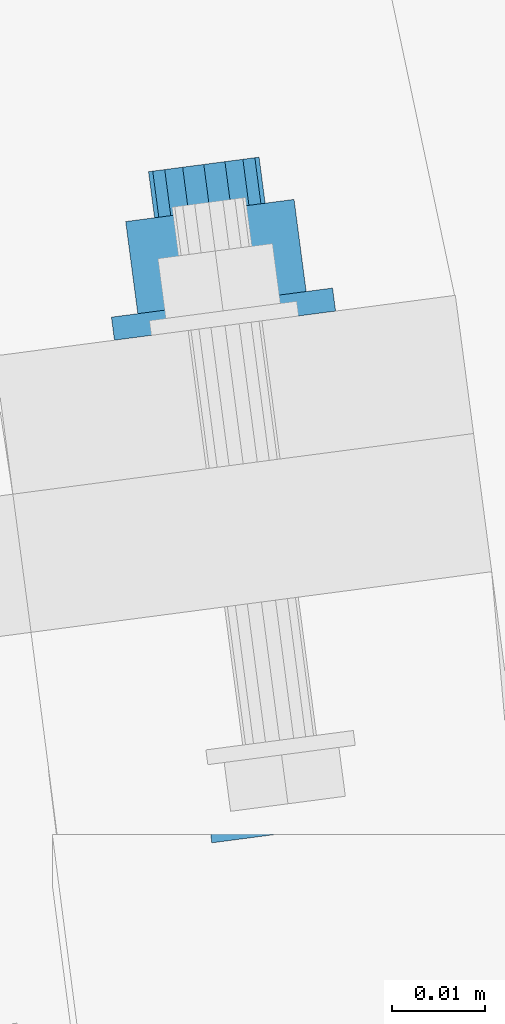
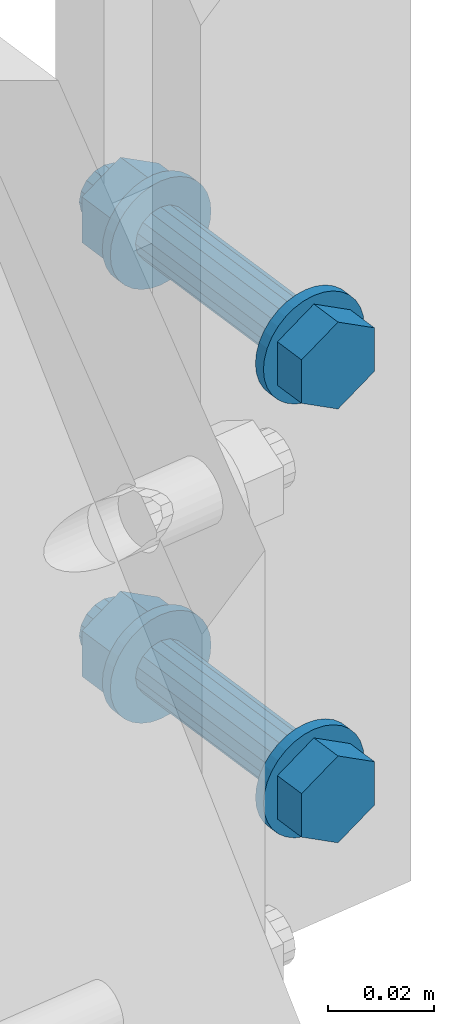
# One storey, part 191 of 296: 1 mechanical fastener.
"""IFC2X3 building model written with IfcOpenShell, lengths in millimetres."""

from ifc_helpers import new_model, entity, si_unit, converted_unit, origin_with_axes, place, context, project, spatial, faceted_brep, element, save


model = new_model("IFC2X3")

# Units and contexts
model_context = context("Model", 3, precision=1e-09, world=origin_with_axes())
ifc_project = project(units=[si_unit("LENGTHUNIT", "METRE", prefix="MILLI"), si_unit("AREAUNIT", "SQUARE_METRE"), si_unit("VOLUMEUNIT", "CUBIC_METRE"), converted_unit("PLANEANGLEUNIT", "DEGREE", entity("IfcPlaneAngleMeasure", 0.01745329), si_unit("PLANEANGLEUNIT", "RADIAN"), dimensions=[0, 0, 0, 0, 0, 0, 0])], contexts=[model_context])

# Site, building, storey
site_placement = place(None, origin_with_axes())
site = spatial("IfcSite", under=ifc_project, at=site_placement, Name="TZD-S?d | Treppenhausgel?nder", CompositionType="ELEMENT")
building_placement = place(site_placement, origin_with_axes())
building = spatial("IfcBuilding", under=site, at=building_placement, Name="Struktur 1", CompositionType="ELEMENT")
storey_placement = place(building_placement, origin_with_axes())
storey = spatial("IfcBuildingStorey", under=building, at=storey_placement, Name="Default Storey", CompositionType="ELEMENT", Elevation=0.0)

# Mechanical fastener
mechanical_fastener_placement = place(None, origin_with_axes())
element("IfcMechanicalFastener", 1, at=mechanical_fastener_placement, inside=storey, ObjectType="-", NominalDiameter=12.0, NominalLength=65.0, context=model_context, shape_type="Brep", body=[
    faceted_brep([(5904.254313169, 269.532119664, 2250.001), (5904.58062865, 267.05350751, 2250.001), (5904.35202463, 267.02341122, 2247.659916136), (5904.025709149, 269.502023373, 2247.659916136), (5903.674997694, 266.934278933, 2245.408798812), (5903.348682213, 269.412891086, 2245.408798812), (5902.575565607, 266.789535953, 2243.334157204), (5902.249250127, 269.268148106, 2243.334157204), (5901.095978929, 266.594744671, 2241.515718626), (5900.769663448, 269.073356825, 2241.515718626), (5899.293097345, 266.357390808, 2240.023364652), (5898.966781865, 268.836002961, 2240.023364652), (5897.236204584, 266.086595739, 2238.91444561), (5896.909889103, 268.565207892, 2238.91444561), (5895.00434588, 265.792765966, 2238.231576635), (5894.6780304, 268.27137812, 2238.231576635), (5892.683290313, 265.487193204, 2238.001), (5892.356974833, 267.965805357, 2238.001), (5890.362234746, 265.181620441, 2238.231576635), (5890.035919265, 267.660232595, 2238.231576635), (5888.130376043, 264.887790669, 2238.91444561), (5887.804060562, 267.366402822, 2238.91444561), (5886.073483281, 264.616995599, 2240.023364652), (5885.747167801, 267.095607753, 2240.023364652), (5884.270601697, 264.379641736, 2241.515718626), (5883.944286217, 266.858253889, 2241.515718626), (5882.791015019, 264.184850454, 2243.334157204), (5882.464699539, 266.663462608, 2243.334157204), (5881.691582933, 264.040107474, 2245.408798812), (5881.365267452, 266.518719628, 2245.408798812), (5881.014555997, 263.950975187, 2247.659916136), (5880.688240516, 266.429587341, 2247.659916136), (5880.785951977, 263.920878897, 2250.001), (5880.459636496, 266.39949105, 2250.001), (5881.014555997, 263.950975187, 2252.342083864), (5880.688240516, 266.429587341, 2252.342083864), (5881.691582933, 264.040107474, 2254.593201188), (5881.365267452, 266.518719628, 2254.593201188), (5882.791015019, 264.184850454, 2256.667842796), (5882.464699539, 266.663462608, 2256.667842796), (5884.270601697, 264.379641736, 2258.486281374), (5883.944286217, 266.858253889, 2258.486281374), (5886.073483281, 264.616995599, 2259.978635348), (5885.747167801, 267.095607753, 2259.978635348), (5888.130376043, 264.887790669, 2261.08755439), (5887.804060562, 267.366402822, 2261.08755439), (5890.362234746, 265.181620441, 2261.770423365), (5890.035919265, 267.660232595, 2261.770423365), (5892.683290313, 265.487193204, 2262.001), (5892.356974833, 267.965805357, 2262.001), (5895.00434588, 265.792765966, 2261.770423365), (5894.6780304, 268.27137812, 2261.770423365), (5897.236204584, 266.086595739, 2261.08755439), (5896.909889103, 268.565207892, 2261.08755439), (5899.293097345, 266.357390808, 2259.978635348), (5898.966781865, 268.836002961, 2259.978635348), (5901.095978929, 266.594744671, 2258.486281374), (5900.769663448, 269.073356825, 2258.486281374), (5902.575565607, 266.789535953, 2256.667842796), (5902.249250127, 269.268148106, 2256.667842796), (5903.674997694, 266.934278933, 2254.593201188), (5903.348682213, 269.412891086, 2254.593201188), (5904.35202463, 267.02341122, 2252.342083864), (5904.025709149, 269.502023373, 2252.342083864)], [[[0, 1, 2, 3]], [[3, 2, 4, 5]], [[5, 4, 6, 7]], [[7, 6, 8, 9]], [[9, 8, 10, 11]], [[11, 10, 12, 13]], [[13, 12, 14, 15]], [[15, 14, 16, 17]], [[17, 16, 18, 19]], [[19, 18, 20, 21]], [[21, 20, 22, 23]], [[23, 22, 24, 25]], [[25, 24, 26, 27]], [[27, 26, 28, 29]], [[29, 28, 30, 31]], [[31, 30, 32, 33]], [[33, 32, 34, 35]], [[35, 34, 36, 37]], [[37, 36, 38, 39]], [[39, 38, 40, 41]], [[41, 40, 42, 43]], [[43, 42, 44, 45]], [[45, 44, 46, 47]], [[47, 46, 48, 49]], [[49, 48, 50, 51]], [[51, 50, 52, 53]], [[53, 52, 54, 55]], [[55, 54, 56, 57]], [[57, 56, 58, 59]], [[59, 58, 60, 61]], [[61, 60, 62, 63]], [[63, 62, 1, 0]], [[2, 1, 62, 60, 58, 56, 54, 52, 50, 48, 46, 44, 42, 40, 38, 36, 34, 32, 30, 28, 26, 24, 22, 20, 18, 16, 14, 12, 10, 8, 6, 4]], [[63, 0, 3, 5, 7, 9, 11, 13, 15, 17, 19, 21, 23, 25, 27, 29, 31, 33, 35, 37, 39, 41, 43, 45, 47, 49, 51, 53, 55, 57, 59, 61]]]),
    faceted_brep([(5904.254313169, 269.532119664, 2150.001), (5904.58062865, 267.05350751, 2150.001), (5904.35202463, 267.02341122, 2147.659916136), (5904.025709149, 269.502023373, 2147.659916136), (5903.674997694, 266.934278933, 2145.408798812), (5903.348682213, 269.412891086, 2145.408798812), (5902.575565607, 266.789535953, 2143.334157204), (5902.249250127, 269.268148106, 2143.334157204), (5901.095978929, 266.594744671, 2141.515718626), (5900.769663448, 269.073356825, 2141.515718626), (5899.293097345, 266.357390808, 2140.023364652), (5898.966781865, 268.836002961, 2140.023364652), (5897.236204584, 266.086595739, 2138.91444561), (5896.909889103, 268.565207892, 2138.91444561), (5895.00434588, 265.792765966, 2138.231576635), (5894.6780304, 268.27137812, 2138.231576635), (5892.683290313, 265.487193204, 2138.001), (5892.356974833, 267.965805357, 2138.001), (5890.362234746, 265.181620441, 2138.231576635), (5890.035919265, 267.660232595, 2138.231576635), (5888.130376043, 264.887790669, 2138.91444561), (5887.804060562, 267.366402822, 2138.91444561), (5886.073483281, 264.616995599, 2140.023364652), (5885.747167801, 267.095607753, 2140.023364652), (5884.270601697, 264.379641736, 2141.515718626), (5883.944286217, 266.858253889, 2141.515718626), (5882.791015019, 264.184850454, 2143.334157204), (5882.464699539, 266.663462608, 2143.334157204), (5881.691582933, 264.040107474, 2145.408798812), (5881.365267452, 266.518719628, 2145.408798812), (5881.014555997, 263.950975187, 2147.659916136), (5880.688240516, 266.429587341, 2147.659916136), (5880.785951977, 263.920878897, 2150.001), (5880.459636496, 266.39949105, 2150.001), (5881.014555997, 263.950975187, 2152.342083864), (5880.688240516, 266.429587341, 2152.342083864), (5881.691582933, 264.040107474, 2154.593201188), (5881.365267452, 266.518719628, 2154.593201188), (5882.791015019, 264.184850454, 2156.667842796), (5882.464699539, 266.663462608, 2156.667842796), (5884.270601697, 264.379641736, 2158.486281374), (5883.944286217, 266.858253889, 2158.486281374), (5886.073483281, 264.616995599, 2159.978635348), (5885.747167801, 267.095607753, 2159.978635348), (5888.130376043, 264.887790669, 2161.08755439), (5887.804060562, 267.366402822, 2161.08755439), (5890.362234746, 265.181620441, 2161.770423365), (5890.035919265, 267.660232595, 2161.770423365), (5892.683290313, 265.487193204, 2162.001), (5892.356974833, 267.965805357, 2162.001), (5895.00434588, 265.792765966, 2161.770423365), (5894.6780304, 268.27137812, 2161.770423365), (5897.236204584, 266.086595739, 2161.08755439), (5896.909889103, 268.565207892, 2161.08755439), (5899.293097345, 266.357390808, 2159.978635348), (5898.966781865, 268.836002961, 2159.978635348), (5901.095978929, 266.594744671, 2158.486281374), (5900.769663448, 269.073356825, 2158.486281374), (5902.575565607, 266.789535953, 2156.667842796), (5902.249250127, 269.268148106, 2156.667842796), (5903.674997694, 266.934278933, 2154.593201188), (5903.348682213, 269.412891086, 2154.593201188), (5904.35202463, 267.02341122, 2152.342083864), (5904.025709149, 269.502023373, 2152.342083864)], [[[0, 1, 2, 3]], [[3, 2, 4, 5]], [[5, 4, 6, 7]], [[7, 6, 8, 9]], [[9, 8, 10, 11]], [[11, 10, 12, 13]], [[13, 12, 14, 15]], [[15, 14, 16, 17]], [[17, 16, 18, 19]], [[19, 18, 20, 21]], [[21, 20, 22, 23]], [[23, 22, 24, 25]], [[25, 24, 26, 27]], [[27, 26, 28, 29]], [[29, 28, 30, 31]], [[31, 30, 32, 33]], [[33, 32, 34, 35]], [[35, 34, 36, 37]], [[37, 36, 38, 39]], [[39, 38, 40, 41]], [[41, 40, 42, 43]], [[43, 42, 44, 45]], [[45, 44, 46, 47]], [[47, 46, 48, 49]], [[49, 48, 50, 51]], [[51, 50, 52, 53]], [[53, 52, 54, 55]], [[55, 54, 56, 57]], [[57, 56, 58, 59]], [[59, 58, 60, 61]], [[61, 60, 62, 63]], [[63, 62, 1, 0]], [[2, 1, 62, 60, 58, 56, 54, 52, 50, 48, 46, 44, 42, 40, 38, 36, 34, 32, 30, 28, 26, 24, 22, 20, 18, 16, 14, 12, 10, 8, 6, 4]], [[63, 0, 3, 5, 7, 9, 11, 13, 15, 17, 19, 21, 23, 25, 27, 29, 31, 33, 35, 37, 39, 41, 43, 45, 47, 49, 51, 53, 55, 57, 59, 61]]]),
    faceted_brep([(5885.063193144, 256.919271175, 2244.9935), (5884.084246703, 264.355107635, 2244.9935), (5892.683290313, 265.487193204, 2239.986), (5893.662236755, 258.051356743, 2239.986), (5901.282333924, 266.619278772, 2244.9935), (5902.261280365, 259.183442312, 2244.9935), (5901.282333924, 266.619278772, 2255.0085), (5902.261280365, 259.183442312, 2255.0085), (5892.683290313, 265.487193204, 2260.016), (5893.662236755, 258.051356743, 2260.016), (5884.084246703, 264.355107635, 2255.0085), (5885.063193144, 256.919271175, 2255.0085)], [[[0, 1, 2, 3]], [[3, 2, 4, 5]], [[5, 4, 6, 7]], [[7, 6, 8, 9]], [[9, 8, 10, 11]], [[11, 10, 1, 0]], [[3, 5, 7, 9, 11, 0]], [[2, 1, 10, 8, 6, 4]]]),
    faceted_brep([(5885.063193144, 256.919271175, 2144.9935), (5884.084246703, 264.355107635, 2144.9935), (5892.683290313, 265.487193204, 2139.986), (5893.662236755, 258.051356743, 2139.986), (5901.282333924, 266.619278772, 2144.9935), (5902.261280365, 259.183442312, 2144.9935), (5901.282333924, 266.619278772, 2155.0085), (5902.261280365, 259.183442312, 2155.0085), (5892.683290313, 265.487193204, 2160.016), (5893.662236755, 258.051356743, 2160.016), (5884.084246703, 264.355107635, 2155.0085), (5885.063193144, 256.919271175, 2155.0085)], [[[0, 1, 2, 3]], [[3, 2, 4, 5]], [[5, 4, 6, 7]], [[7, 6, 8, 9]], [[9, 8, 10, 11]], [[11, 10, 1, 0]], [[3, 5, 7, 9, 11, 0]], [[2, 1, 10, 8, 6, 4]]]),
    faceted_brep([(5892.431965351, 313.363981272, 2250.001), (5898.305644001, 268.74896251, 2250.001), (5897.852828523, 268.689348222, 2247.704899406), (5891.979149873, 313.304366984, 2247.704899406), (5896.563319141, 268.519581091, 2245.758359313), (5890.689640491, 313.134599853, 2245.758359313), (5894.633431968, 268.265506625, 2244.457722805), (5888.759753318, 312.880525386, 2244.457722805), (5892.356974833, 267.965805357, 2244.001), (5886.483296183, 312.580824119, 2244.001), (5890.080517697, 267.66610409, 2244.457722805), (5884.206839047, 312.281122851, 2244.457722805), (5888.150630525, 267.412029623, 2245.758359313), (5882.276951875, 312.027048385, 2245.758359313), (5886.861121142, 267.242262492, 2247.704899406), (5880.987442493, 311.857281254, 2247.704899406), (5886.408305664, 267.182648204, 2250.001), (5880.534627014, 311.797666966, 2250.001), (5886.861121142, 267.242262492, 2252.297100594), (5880.987442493, 311.857281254, 2252.297100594), (5888.150630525, 267.412029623, 2254.243640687), (5882.276951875, 312.027048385, 2254.243640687), (5890.080517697, 267.66610409, 2255.544277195), (5884.206839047, 312.281122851, 2255.544277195), (5892.356974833, 267.965805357, 2256.001), (5886.483296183, 312.580824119, 2256.001), (5894.633431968, 268.265506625, 2255.544277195), (5888.759753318, 312.880525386, 2255.544277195), (5896.563319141, 268.519581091, 2254.243640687), (5890.689640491, 313.134599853, 2254.243640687), (5897.852828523, 268.689348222, 2252.297100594), (5891.979149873, 313.304366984, 2252.297100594)], [[[0, 1, 2, 3]], [[3, 2, 4, 5]], [[5, 4, 6, 7]], [[7, 6, 8, 9]], [[9, 8, 10, 11]], [[11, 10, 12, 13]], [[13, 12, 14, 15]], [[15, 14, 16, 17]], [[17, 16, 18, 19]], [[19, 18, 20, 21]], [[21, 20, 22, 23]], [[23, 22, 24, 25]], [[25, 24, 26, 27]], [[27, 26, 28, 29]], [[29, 28, 30, 31]], [[31, 30, 1, 0]], [[2, 1, 30, 28, 26, 24, 22, 20, 18, 16, 14, 12, 10, 8, 6, 4]], [[31, 0, 3, 5, 7, 9, 11, 13, 15, 17, 19, 21, 23, 25, 27, 29]]]),
    faceted_brep([(5892.431965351, 313.363981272, 2150.001), (5898.305644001, 268.74896251, 2150.001), (5897.852828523, 268.689348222, 2147.704899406), (5891.979149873, 313.304366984, 2147.704899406), (5896.563319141, 268.519581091, 2145.758359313), (5890.689640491, 313.134599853, 2145.758359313), (5894.633431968, 268.265506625, 2144.457722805), (5888.759753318, 312.880525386, 2144.457722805), (5892.356974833, 267.965805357, 2144.001), (5886.483296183, 312.580824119, 2144.001), (5890.080517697, 267.66610409, 2144.457722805), (5884.206839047, 312.281122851, 2144.457722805), (5888.150630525, 267.412029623, 2145.758359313), (5882.276951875, 312.027048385, 2145.758359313), (5886.861121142, 267.242262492, 2147.704899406), (5880.987442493, 311.857281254, 2147.704899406), (5886.408305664, 267.182648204, 2150.001), (5880.534627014, 311.797666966, 2150.001), (5886.861121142, 267.242262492, 2152.297100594), (5880.987442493, 311.857281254, 2152.297100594), (5888.150630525, 267.412029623, 2154.243640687), (5882.276951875, 312.027048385, 2154.243640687), (5890.080517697, 267.66610409, 2155.544277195), (5884.206839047, 312.281122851, 2155.544277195), (5892.356974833, 267.965805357, 2156.001), (5886.483296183, 312.580824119, 2156.001), (5894.633431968, 268.265506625, 2155.544277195), (5888.759753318, 312.880525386, 2155.544277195), (5896.563319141, 268.519581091, 2154.243640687), (5890.689640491, 313.134599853, 2154.243640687), (5897.852828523, 268.689348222, 2152.297100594), (5891.979149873, 313.304366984, 2152.297100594)], [[[0, 1, 2, 3]], [[3, 2, 4, 5]], [[5, 4, 6, 7]], [[7, 6, 8, 9]], [[9, 8, 10, 11]], [[11, 10, 12, 13]], [[13, 12, 14, 15]], [[15, 14, 16, 17]], [[17, 16, 18, 19]], [[19, 18, 20, 21]], [[21, 20, 22, 23]], [[23, 22, 24, 25]], [[25, 24, 26, 27]], [[27, 26, 28, 29]], [[29, 28, 30, 31]], [[31, 30, 1, 0]], [[2, 1, 30, 28, 26, 24, 22, 20, 18, 16, 14, 12, 10, 8, 6, 4]], [[31, 0, 3, 5, 7, 9, 11, 13, 15, 17, 19, 21, 23, 25, 27, 29]]]),
    faceted_brep([(5898.054319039, 316.625750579, 2250.001), (5898.380634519, 314.147138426, 2250.001), (5898.152030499, 314.117042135, 2247.659916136), (5897.825715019, 316.595654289, 2247.659916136), (5897.475003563, 314.027909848, 2245.408798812), (5897.148688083, 316.506522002, 2245.408798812), (5896.375571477, 313.883166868, 2243.334157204), (5896.049255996, 316.361779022, 2243.334157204), (5894.895984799, 313.688375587, 2241.515718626), (5894.569669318, 316.16698774, 2241.515718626), (5893.093103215, 313.451021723, 2240.023364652), (5892.766787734, 315.929633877, 2240.023364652), (5891.036210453, 313.180226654, 2238.91444561), (5890.709894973, 315.658838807, 2238.91444561), (5888.80435175, 312.886396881, 2238.231576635), (5888.478036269, 315.365009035, 2238.231576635), (5886.483296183, 312.580824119, 2238.001), (5886.156980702, 315.059436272, 2238.001), (5884.162240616, 312.275251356, 2238.231576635), (5883.835925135, 314.75386351, 2238.231576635), (5881.930381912, 311.981421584, 2238.91444561), (5881.604066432, 314.460033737, 2238.91444561), (5879.873489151, 311.710626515, 2240.023364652), (5879.54717367, 314.189238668, 2240.023364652), (5878.070607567, 311.473272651, 2241.515718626), (5877.744292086, 313.951884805, 2241.515718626), (5876.591020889, 311.27848137, 2243.334157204), (5876.264705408, 313.757093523, 2243.334157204), (5875.491588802, 311.133738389, 2245.408798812), (5875.165273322, 313.612350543, 2245.408798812), (5874.814561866, 311.044606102, 2247.659916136), (5874.488246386, 313.523218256, 2247.659916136), (5874.585957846, 311.014509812, 2250.001), (5874.259642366, 313.493121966, 2250.001), (5874.814561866, 311.044606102, 2252.342083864), (5874.488246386, 313.523218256, 2252.342083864), (5875.491588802, 311.133738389, 2254.593201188), (5875.165273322, 313.612350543, 2254.593201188), (5876.591020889, 311.27848137, 2256.667842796), (5876.264705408, 313.757093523, 2256.667842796), (5878.070607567, 311.473272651, 2258.486281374), (5877.744292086, 313.951884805, 2258.486281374), (5879.873489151, 311.710626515, 2259.978635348), (5879.54717367, 314.189238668, 2259.978635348), (5881.930381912, 311.981421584, 2261.08755439), (5881.604066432, 314.460033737, 2261.08755439), (5884.162240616, 312.275251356, 2261.770423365), (5883.835925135, 314.75386351, 2261.770423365), (5886.483296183, 312.580824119, 2262.001), (5886.156980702, 315.059436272, 2262.001), (5888.80435175, 312.886396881, 2261.770423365), (5888.478036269, 315.365009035, 2261.770423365), (5891.036210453, 313.180226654, 2261.08755439), (5890.709894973, 315.658838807, 2261.08755439), (5893.093103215, 313.451021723, 2259.978635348), (5892.766787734, 315.929633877, 2259.978635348), (5894.895984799, 313.688375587, 2258.486281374), (5894.569669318, 316.16698774, 2258.486281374), (5896.375571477, 313.883166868, 2256.667842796), (5896.049255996, 316.361779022, 2256.667842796), (5897.475003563, 314.027909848, 2254.593201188), (5897.148688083, 316.506522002, 2254.593201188), (5898.152030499, 314.117042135, 2252.342083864), (5897.825715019, 316.595654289, 2252.342083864)], [[[0, 1, 2, 3]], [[3, 2, 4, 5]], [[5, 4, 6, 7]], [[7, 6, 8, 9]], [[9, 8, 10, 11]], [[11, 10, 12, 13]], [[13, 12, 14, 15]], [[15, 14, 16, 17]], [[17, 16, 18, 19]], [[19, 18, 20, 21]], [[21, 20, 22, 23]], [[23, 22, 24, 25]], [[25, 24, 26, 27]], [[27, 26, 28, 29]], [[29, 28, 30, 31]], [[31, 30, 32, 33]], [[33, 32, 34, 35]], [[35, 34, 36, 37]], [[37, 36, 38, 39]], [[39, 38, 40, 41]], [[41, 40, 42, 43]], [[43, 42, 44, 45]], [[45, 44, 46, 47]], [[47, 46, 48, 49]], [[49, 48, 50, 51]], [[51, 50, 52, 53]], [[53, 52, 54, 55]], [[55, 54, 56, 57]], [[57, 56, 58, 59]], [[59, 58, 60, 61]], [[61, 60, 62, 63]], [[63, 62, 1, 0]], [[2, 1, 62, 60, 58, 56, 54, 52, 50, 48, 46, 44, 42, 40, 38, 36, 34, 32, 30, 28, 26, 24, 22, 20, 18, 16, 14, 12, 10, 8, 6, 4]], [[63, 0, 3, 5, 7, 9, 11, 13, 15, 17, 19, 21, 23, 25, 27, 29, 31, 33, 35, 37, 39, 41, 43, 45, 47, 49, 51, 53, 55, 57, 59, 61]]]),
    faceted_brep([(5898.054319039, 316.625750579, 2150.001), (5898.380634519, 314.147138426, 2150.001), (5898.152030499, 314.117042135, 2147.659916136), (5897.825715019, 316.595654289, 2147.659916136), (5897.475003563, 314.027909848, 2145.408798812), (5897.148688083, 316.506522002, 2145.408798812), (5896.375571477, 313.883166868, 2143.334157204), (5896.049255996, 316.361779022, 2143.334157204), (5894.895984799, 313.688375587, 2141.515718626), (5894.569669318, 316.16698774, 2141.515718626), (5893.093103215, 313.451021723, 2140.023364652), (5892.766787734, 315.929633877, 2140.023364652), (5891.036210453, 313.180226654, 2138.91444561), (5890.709894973, 315.658838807, 2138.91444561), (5888.80435175, 312.886396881, 2138.231576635), (5888.478036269, 315.365009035, 2138.231576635), (5886.483296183, 312.580824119, 2138.001), (5886.156980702, 315.059436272, 2138.001), (5884.162240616, 312.275251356, 2138.231576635), (5883.835925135, 314.75386351, 2138.231576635), (5881.930381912, 311.981421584, 2138.91444561), (5881.604066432, 314.460033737, 2138.91444561), (5879.873489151, 311.710626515, 2140.023364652), (5879.54717367, 314.189238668, 2140.023364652), (5878.070607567, 311.473272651, 2141.515718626), (5877.744292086, 313.951884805, 2141.515718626), (5876.591020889, 311.27848137, 2143.334157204), (5876.264705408, 313.757093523, 2143.334157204), (5875.491588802, 311.133738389, 2145.408798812), (5875.165273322, 313.612350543, 2145.408798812), (5874.814561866, 311.044606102, 2147.659916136), (5874.488246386, 313.523218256, 2147.659916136), (5874.585957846, 311.014509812, 2150.001), (5874.259642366, 313.493121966, 2150.001), (5874.814561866, 311.044606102, 2152.342083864), (5874.488246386, 313.523218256, 2152.342083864), (5875.491588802, 311.133738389, 2154.593201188), (5875.165273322, 313.612350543, 2154.593201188), (5876.591020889, 311.27848137, 2156.667842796), (5876.264705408, 313.757093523, 2156.667842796), (5878.070607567, 311.473272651, 2158.486281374), (5877.744292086, 313.951884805, 2158.486281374), (5879.873489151, 311.710626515, 2159.978635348), (5879.54717367, 314.189238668, 2159.978635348), (5881.930381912, 311.981421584, 2161.08755439), (5881.604066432, 314.460033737, 2161.08755439), (5884.162240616, 312.275251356, 2161.770423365), (5883.835925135, 314.75386351, 2161.770423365), (5886.483296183, 312.580824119, 2162.001), (5886.156980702, 315.059436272, 2162.001), (5888.80435175, 312.886396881, 2161.770423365), (5888.478036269, 315.365009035, 2161.770423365), (5891.036210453, 313.180226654, 2161.08755439), (5890.709894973, 315.658838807, 2161.08755439), (5893.093103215, 313.451021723, 2159.978635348), (5892.766787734, 315.929633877, 2159.978635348), (5894.895984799, 313.688375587, 2158.486281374), (5894.569669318, 316.16698774, 2158.486281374), (5896.375571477, 313.883166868, 2156.667842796), (5896.049255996, 316.361779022, 2156.667842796), (5897.475003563, 314.027909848, 2154.593201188), (5897.148688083, 316.506522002, 2154.593201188), (5898.152030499, 314.117042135, 2152.342083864), (5897.825715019, 316.595654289, 2152.342083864)], [[[0, 1, 2, 3]], [[3, 2, 4, 5]], [[5, 4, 6, 7]], [[7, 6, 8, 9]], [[9, 8, 10, 11]], [[11, 10, 12, 13]], [[13, 12, 14, 15]], [[15, 14, 16, 17]], [[17, 16, 18, 19]], [[19, 18, 20, 21]], [[21, 20, 22, 23]], [[23, 22, 24, 25]], [[25, 24, 26, 27]], [[27, 26, 28, 29]], [[29, 28, 30, 31]], [[31, 30, 32, 33]], [[33, 32, 34, 35]], [[35, 34, 36, 37]], [[37, 36, 38, 39]], [[39, 38, 40, 41]], [[41, 40, 42, 43]], [[43, 42, 44, 45]], [[45, 44, 46, 47]], [[47, 46, 48, 49]], [[49, 48, 50, 51]], [[51, 50, 52, 53]], [[53, 52, 54, 55]], [[55, 54, 56, 57]], [[57, 56, 58, 59]], [[59, 58, 60, 61]], [[61, 60, 62, 63]], [[63, 62, 1, 0]], [[2, 1, 62, 60, 58, 56, 54, 52, 50, 48, 46, 44, 42, 40, 38, 36, 34, 32, 30, 28, 26, 24, 22, 20, 18, 16, 14, 12, 10, 8, 6, 4]], [[63, 0, 3, 5, 7, 9, 11, 13, 15, 17, 19, 21, 23, 25, 27, 29, 31, 33, 35, 37, 39, 41, 43, 45, 47, 49, 51, 53, 55, 57, 59, 61]]]),
    faceted_brep([(5877.098577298, 313.86687484, 2244.726), (5875.793315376, 323.781323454, 2244.726), (5884.85171878, 324.973884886, 2239.451), (5886.156980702, 315.059436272, 2239.451), (5893.910122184, 326.166446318, 2244.726), (5895.215384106, 316.251997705, 2244.726), (5893.910122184, 326.166446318, 2255.276), (5895.215384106, 316.251997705, 2255.276), (5884.85171878, 324.973884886, 2260.551), (5886.156980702, 315.059436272, 2260.551), (5875.793315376, 323.781323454, 2255.276), (5877.098577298, 313.86687484, 2255.276)], [[[0, 1, 2, 3]], [[3, 2, 4, 5]], [[5, 4, 6, 7]], [[7, 6, 8, 9]], [[9, 8, 10, 11]], [[11, 10, 1, 0]], [[3, 5, 7, 9, 11, 0]], [[2, 1, 10, 8, 6, 4]]]),
    faceted_brep([(5877.098577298, 313.86687484, 2144.726), (5875.793315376, 323.781323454, 2144.726), (5884.85171878, 324.973884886, 2139.451), (5886.156980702, 315.059436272, 2139.451), (5893.910122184, 326.166446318, 2144.726), (5895.215384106, 316.251997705, 2144.726), (5893.910122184, 326.166446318, 2155.276), (5895.215384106, 316.251997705, 2155.276), (5884.85171878, 324.973884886, 2160.551), (5886.156980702, 315.059436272, 2160.551), (5875.793315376, 323.781323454, 2155.276), (5877.098577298, 313.86687484, 2155.276)], [[[0, 1, 2, 3]], [[3, 2, 4, 5]], [[5, 4, 6, 7]], [[7, 6, 8, 9]], [[9, 8, 10, 11]], [[11, 10, 1, 0]], [[3, 5, 7, 9, 11, 0]], [[2, 1, 10, 8, 6, 4]]]),
    faceted_brep([(5890.147756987, 330.714266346, 2250.001), (5890.800387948, 325.757042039, 2250.001), (5890.34757247, 325.697427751, 2247.704899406), (5889.694941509, 330.654652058, 2247.704899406), (5889.058063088, 325.52766062, 2245.758359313), (5888.405432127, 330.484884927, 2245.758359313), (5887.128175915, 325.273586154, 2244.457722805), (5886.475544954, 330.23081046, 2244.457722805), (5884.85171878, 324.973884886, 2244.001), (5884.199087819, 329.931109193, 2244.001), (5882.575261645, 324.674183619, 2244.457722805), (5881.922630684, 329.631407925, 2244.457722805), (5880.645374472, 324.420109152, 2245.758359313), (5879.992743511, 329.377333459, 2245.758359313), (5879.35586509, 324.250342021, 2247.704899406), (5878.703234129, 329.207566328, 2247.704899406), (5878.903049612, 324.190727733, 2250.001), (5878.250418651, 329.14795204, 2250.001), (5879.35586509, 324.250342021, 2252.297100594), (5878.703234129, 329.207566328, 2252.297100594), (5880.645374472, 324.420109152, 2254.243640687), (5879.992743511, 329.377333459, 2254.243640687), (5882.575261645, 324.674183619, 2255.544277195), (5881.922630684, 329.631407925, 2255.544277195), (5884.85171878, 324.973884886, 2256.001), (5884.199087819, 329.931109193, 2256.001), (5887.128175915, 325.273586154, 2255.544277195), (5886.475544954, 330.23081046, 2255.544277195), (5889.058063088, 325.52766062, 2254.243640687), (5888.405432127, 330.484884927, 2254.243640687), (5890.34757247, 325.697427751, 2252.297100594), (5889.694941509, 330.654652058, 2252.297100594)], [[[0, 1, 2, 3]], [[3, 2, 4, 5]], [[5, 4, 6, 7]], [[7, 6, 8, 9]], [[9, 8, 10, 11]], [[11, 10, 12, 13]], [[13, 12, 14, 15]], [[15, 14, 16, 17]], [[17, 16, 18, 19]], [[19, 18, 20, 21]], [[21, 20, 22, 23]], [[23, 22, 24, 25]], [[25, 24, 26, 27]], [[27, 26, 28, 29]], [[29, 28, 30, 31]], [[31, 30, 1, 0]], [[2, 1, 30, 28, 26, 24, 22, 20, 18, 16, 14, 12, 10, 8, 6, 4]], [[31, 0, 3, 5, 7, 9, 11, 13, 15, 17, 19, 21, 23, 25, 27, 29]]]),
    faceted_brep([(5890.147756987, 330.714266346, 2150.001), (5890.800387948, 325.757042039, 2150.001), (5890.34757247, 325.697427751, 2147.704899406), (5889.694941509, 330.654652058, 2147.704899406), (5889.058063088, 325.52766062, 2145.758359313), (5888.405432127, 330.484884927, 2145.758359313), (5887.128175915, 325.273586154, 2144.457722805), (5886.475544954, 330.23081046, 2144.457722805), (5884.85171878, 324.973884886, 2144.001), (5884.199087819, 329.931109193, 2144.001), (5882.575261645, 324.674183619, 2144.457722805), (5881.922630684, 329.631407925, 2144.457722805), (5880.645374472, 324.420109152, 2145.758359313), (5879.992743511, 329.377333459, 2145.758359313), (5879.35586509, 324.250342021, 2147.704899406), (5878.703234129, 329.207566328, 2147.704899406), (5878.903049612, 324.190727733, 2150.001), (5878.250418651, 329.14795204, 2150.001), (5879.35586509, 324.250342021, 2152.297100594), (5878.703234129, 329.207566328, 2152.297100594), (5880.645374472, 324.420109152, 2154.243640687), (5879.992743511, 329.377333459, 2154.243640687), (5882.575261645, 324.674183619, 2155.544277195), (5881.922630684, 329.631407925, 2155.544277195), (5884.85171878, 324.973884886, 2156.001), (5884.199087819, 329.931109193, 2156.001), (5887.128175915, 325.273586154, 2155.544277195), (5886.475544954, 330.23081046, 2155.544277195), (5889.058063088, 325.52766062, 2154.243640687), (5888.405432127, 330.484884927, 2154.243640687), (5890.34757247, 325.697427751, 2152.297100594), (5889.694941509, 330.654652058, 2152.297100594)], [[[0, 1, 2, 3]], [[3, 2, 4, 5]], [[5, 4, 6, 7]], [[7, 6, 8, 9]], [[9, 8, 10, 11]], [[11, 10, 12, 13]], [[13, 12, 14, 15]], [[15, 14, 16, 17]], [[17, 16, 18, 19]], [[19, 18, 20, 21]], [[21, 20, 22, 23]], [[23, 22, 24, 25]], [[25, 24, 26, 27]], [[27, 26, 28, 29]], [[29, 28, 30, 31]], [[31, 30, 1, 0]], [[2, 1, 30, 28, 26, 24, 22, 20, 18, 16, 14, 12, 10, 8, 6, 4]], [[31, 0, 3, 5, 7, 9, 11, 13, 15, 17, 19, 21, 23, 25, 27, 29]]]),
])

save(model, "model.ifc")
